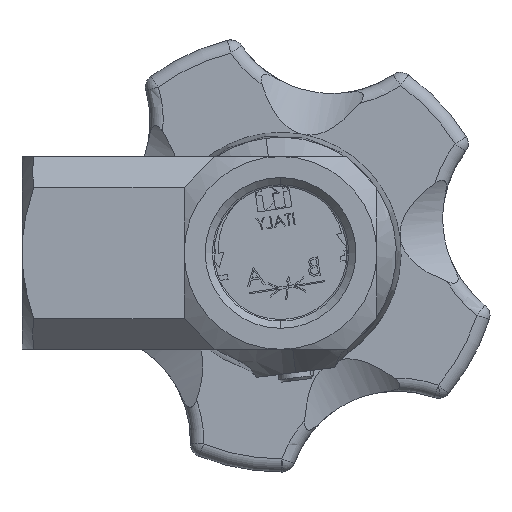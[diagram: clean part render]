
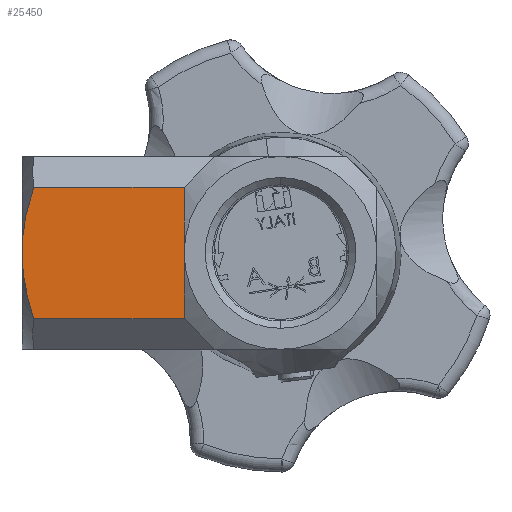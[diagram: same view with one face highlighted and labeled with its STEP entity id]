
A CAD part, front view. The second image highlights one B-rep face of the part: STEP entity #25450.
In plain terms, the highlighted planar face has unit normal (0, -1, 0).
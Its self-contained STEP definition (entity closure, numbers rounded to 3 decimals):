
#49 = CARTESIAN_POINT ( 'NONE',  ( -28.164, -11., -7.5 ) ) ;
#812 = CARTESIAN_POINT ( 'NONE',  ( -29.248, -11., 3.185 ) ) ;
#1375 = VERTEX_POINT ( 'NONE', #3290 ) ;
#1851 = DIRECTION ( 'NONE',  ( 0., -1., 0. ) ) ;
#2554 = DIRECTION ( 'NONE',  ( 1., 0., 0. ) ) ;
#3290 = CARTESIAN_POINT ( 'NONE',  ( -11., -11., -7.5 ) ) ;
#3297 = CARTESIAN_POINT ( 'NONE',  ( -29.467, -11., 1.283 ) ) ;
#3878 = CARTESIAN_POINT ( 'NONE',  ( -29.369, -11., -2.541 ) ) ;
#4594 = ORIENTED_EDGE ( 'NONE', *, *, #20888, .T. ) ;
#5033 = DIRECTION ( 'NONE',  ( 0., 0., -1. ) ) ;
#5238 = ORIENTED_EDGE ( 'NONE', *, *, #30497, .T. ) ;
#5759 = CARTESIAN_POINT ( 'NONE',  ( -29.5, -11., 0. ) ) ;
#6364 = CARTESIAN_POINT ( 'NONE',  ( -28.559, -11., -6.287 ) ) ;
#10654 = CARTESIAN_POINT ( 'NONE',  ( -28.559, -11., 6.285 ) ) ;
#11048 = VERTEX_POINT ( 'NONE', #11185 ) ;
#11185 = CARTESIAN_POINT ( 'NONE',  ( -29.5, -11., 0. ) ) ;
#11392 = EDGE_CURVE ( 'NONE', #11048, #29527, #23426, .T. ) ;
#12846 = LINE ( 'NONE', #22016, #18671 ) ;
#13456 = FACE_OUTER_BOUND ( 'NONE', #32189, .T. ) ;
#13757 = ORIENTED_EDGE ( 'NONE', *, *, #28933, .F. ) ;
#14941 = CARTESIAN_POINT ( 'NONE',  ( -11., -11., -11. ) ) ;
#15683 = CARTESIAN_POINT ( 'NONE',  ( -28.894, -11., 5.058 ) ) ;
#15730 = VECTOR ( 'NONE', #5033, 1000. ) ;
#16180 = CARTESIAN_POINT ( 'NONE',  ( -11., -11., 7.5 ) ) ;
#16759 = CARTESIAN_POINT ( 'NONE',  ( -29.5, -11., 11. ) ) ;
#17122 = DIRECTION ( 'NONE',  ( -1., 0., 0. ) ) ;
#18165 = CARTESIAN_POINT ( 'NONE',  ( -29.341, -11., 2.555 ) ) ;
#18671 = VECTOR ( 'NONE', #17122, 1000. ) ;
#19157 = PLANE ( 'NONE',  #26168 ) ;
#19269 = DIRECTION ( 'NONE',  ( 0., 0., -1. ) ) ;
#19957 = CARTESIAN_POINT ( 'NONE',  ( -11., -11., -7.5 ) ) ;
#20664 = CARTESIAN_POINT ( 'NONE',  ( -29.5, -11., 0.638 ) ) ;
#20888 = EDGE_CURVE ( 'NONE', #28187, #11048, #29544, .T. ) ;
#21023 = LINE ( 'NONE', #19957, #27605 ) ;
#21138 = CARTESIAN_POINT ( 'NONE',  ( -29.5, -11., 0. ) ) ;
#21247 = CARTESIAN_POINT ( 'NONE',  ( -28.898, -11., -5.043 ) ) ;
#22016 = CARTESIAN_POINT ( 'NONE',  ( -29.5, -11., 7.5 ) ) ;
#22313 = LINE ( 'NONE', #14941, #15730 ) ;
#23426 = B_SPLINE_CURVE_WITH_KNOTS ( 'NONE', 3,
 ( #21138, #26048, #3878, #21247, #6364, #23745 ),
 .UNSPECIFIED., .F., .F.,
 ( 4, 2, 4 ),
 ( 0.036, 0.04, 0.043 ),
 .UNSPECIFIED. ) ;
#23745 = CARTESIAN_POINT ( 'NONE',  ( -28.164, -11., -7.5 ) ) ;
#25450 = ADVANCED_FACE ( 'NONE', ( #13456 ), #19157, .T. ) ;
#25574 = ORIENTED_EDGE ( 'NONE', *, *, #26964, .T. ) ;
#26048 = CARTESIAN_POINT ( 'NONE',  ( -29.5, -11., -1.278 ) ) ;
#26168 = AXIS2_PLACEMENT_3D ( 'NONE', #16759, #1851, #19269 ) ;
#26964 = EDGE_CURVE ( 'NONE', #30318, #28187, #12846, .T. ) ;
#27605 = VECTOR ( 'NONE', #2554, 1000. ) ;
#28044 = CARTESIAN_POINT ( 'NONE',  ( -28.164, -11., 7.5 ) ) ;
#28187 = VERTEX_POINT ( 'NONE', #28880 ) ;
#28570 = ORIENTED_EDGE ( 'NONE', *, *, #11392, .T. ) ;
#28880 = CARTESIAN_POINT ( 'NONE',  ( -28.164, -11., 7.5 ) ) ;
#28933 = EDGE_CURVE ( 'NONE', #30318, #1375, #22313, .T. ) ;
#29527 = VERTEX_POINT ( 'NONE', #49 ) ;
#29544 = B_SPLINE_CURVE_WITH_KNOTS ( 'NONE', 3,
 ( #28044, #10654, #15683, #812, #18165, #3297, #20664, #5759 ),
 .UNSPECIFIED., .F., .F.,
 ( 4, 2, 2, 4 ),
 ( 0.028, 0.032, 0.034, 0.036 ),
 .UNSPECIFIED. ) ;
#30318 = VERTEX_POINT ( 'NONE', #16180 ) ;
#30497 = EDGE_CURVE ( 'NONE', #29527, #1375, #21023, .T. ) ;
#32189 = EDGE_LOOP ( 'NONE', ( #25574, #4594, #28570, #5238, #13757 ) ) ;
